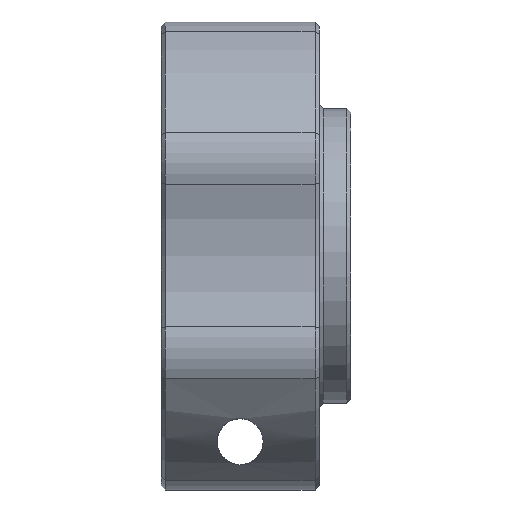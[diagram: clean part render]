
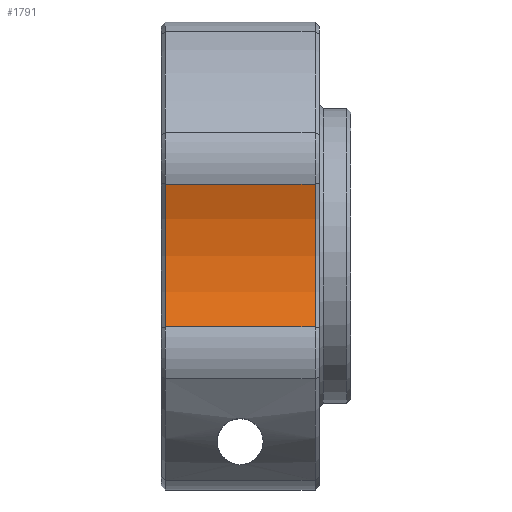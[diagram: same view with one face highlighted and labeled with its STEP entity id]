
A CAD part, top view. The second image highlights one B-rep face of the part: STEP entity #1791.
In plain terms, the highlighted cylindrical face has radius 12.7 mm (diameter 25.4 mm), a partial arc.
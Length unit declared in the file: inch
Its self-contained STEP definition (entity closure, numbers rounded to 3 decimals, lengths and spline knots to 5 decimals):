
#147=CIRCLE('',#1895,0.5);
#166=CIRCLE('',#1937,0.5);
#210=CYLINDRICAL_SURFACE('',#1993,0.5);
#311=FACE_OUTER_BOUND('',#426,.T.);
#426=EDGE_LOOP('',(#1615,#1616,#1617,#1618));
#573=LINE('',#3448,#718);
#574=LINE('',#3450,#719);
#718=VECTOR('',#2494,0.3937);
#719=VECTOR('',#2497,0.3937);
#821=VERTEX_POINT('',#2770);
#822=VERTEX_POINT('',#2774);
#861=VERTEX_POINT('',#3264);
#862=VERTEX_POINT('',#3268);
#1005=EDGE_CURVE('',#821,#822,#147,.T.);
#1077=EDGE_CURVE('',#861,#862,#166,.T.);
#1137=EDGE_CURVE('',#821,#862,#573,.T.);
#1138=EDGE_CURVE('',#822,#861,#574,.T.);
#1615=ORIENTED_EDGE('',*,*,#1005,.F.);
#1616=ORIENTED_EDGE('',*,*,#1137,.T.);
#1617=ORIENTED_EDGE('',*,*,#1077,.F.);
#1618=ORIENTED_EDGE('',*,*,#1138,.F.);
#1791=ADVANCED_FACE('',(#311),#210,.F.);
#1895=AXIS2_PLACEMENT_3D('',#2776,#2225,#2226);
#1937=AXIS2_PLACEMENT_3D('',#3270,#2347,#2348);
#1993=AXIS2_PLACEMENT_3D('',#3449,#2495,#2496);
#2225=DIRECTION('center_axis',(1.,0.,0.));
#2226=DIRECTION('ref_axis',(0.,1.,0.));
#2347=DIRECTION('center_axis',(-1.,0.,0.));
#2348=DIRECTION('ref_axis',(0.,1.,0.));
#2494=DIRECTION('',(1.,0.,0.));
#2495=DIRECTION('center_axis',(-1.,0.,0.));
#2496=DIRECTION('ref_axis',(0.,1.,0.));
#2497=DIRECTION('',(1.,0.,0.));
#2770=CARTESIAN_POINT('',(-0.05266,-0.16912,0.51698));
#2774=CARTESIAN_POINT('',(-0.05266,0.16912,0.51698));
#2776=CARTESIAN_POINT('Origin',(-0.05266,0.,
0.98751));
#3264=CARTESIAN_POINT('',(0.30266,0.16912,0.51698));
#3268=CARTESIAN_POINT('',(0.30266,-0.16912,0.51698));
#3270=CARTESIAN_POINT('Origin',(0.30266,0.,
0.98751));
#3448=CARTESIAN_POINT('',(0.25,-0.16912,0.51698));
#3449=CARTESIAN_POINT('Origin',(0.25,0.,0.98751));
#3450=CARTESIAN_POINT('',(0.25,0.16912,0.51698));
